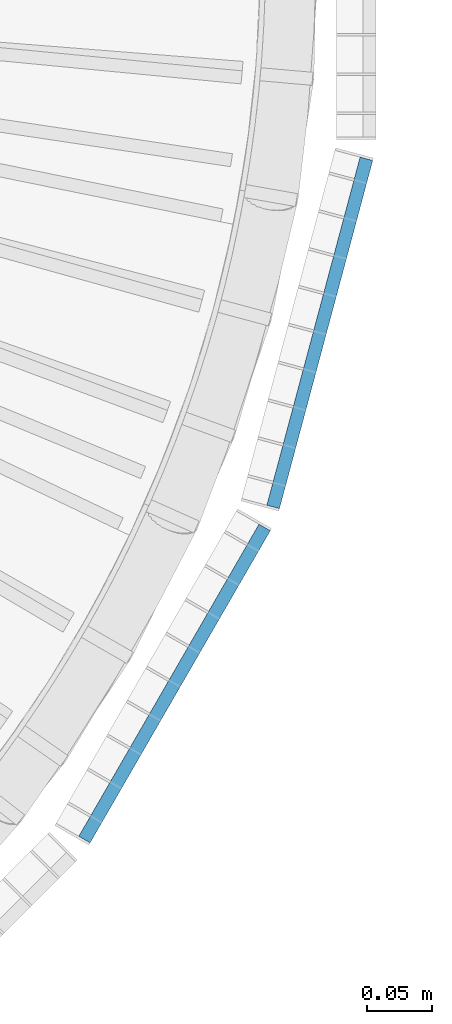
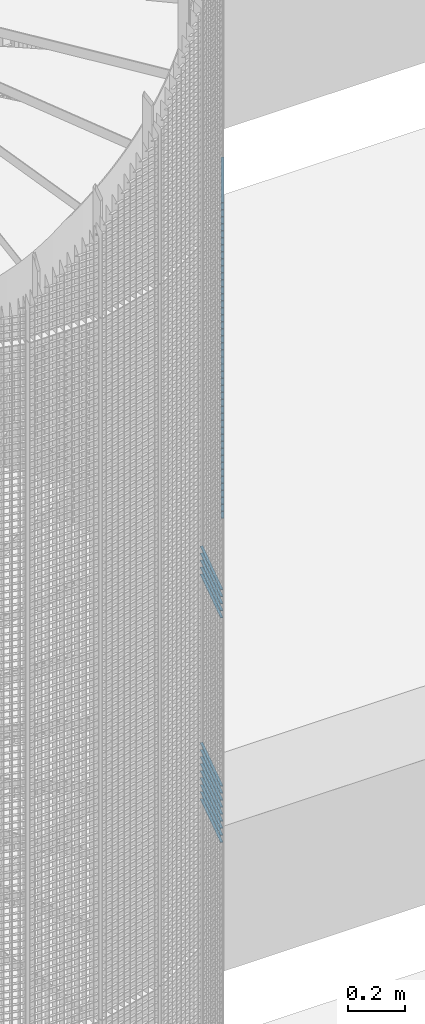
# One storey, part 228 of 1148: 60 beams, 2 elements without a shape of their own.
"""IFC2X3 building model written with IfcOpenShell, lengths in millimetres."""

from ifc_helpers import new_model, si_unit, frame, origin_with_axes, origin_2d_with_axis, place, context, subcontext, project, spatial, rectangle, extrude, material, type_object, element, aggregate, save


model = new_model("IFC2X3")

# Units and contexts
model_context = context("Model", 3, precision=1e-05, world=origin_with_axes())
body_context = subcontext(model_context, "Body", "Model", "MODEL_VIEW")
ifc_project = project(units=[si_unit("LENGTHUNIT", "METRE", prefix="MILLI"), si_unit("AREAUNIT", "SQUARE_METRE"), si_unit("VOLUMEUNIT", "CUBIC_METRE"), si_unit("MASSUNIT", "GRAM", prefix="KILO"), si_unit("TIMEUNIT", "SECOND"), si_unit("PLANEANGLEUNIT", "RADIAN"), si_unit("SOLIDANGLEUNIT", "STERADIAN"), si_unit("THERMODYNAMICTEMPERATUREUNIT", "DEGREE_CELSIUS"), si_unit("LUMINOUSINTENSITYUNIT", "LUMEN")], contexts=[model_context])

# Site, building, storey
site_placement = place(None, origin_with_axes())
site = spatial("IfcSite", under=ifc_project, at=site_placement, Name="Undefined", CompositionType="ELEMENT")
building_placement = place(site_placement, origin_with_axes())
building = spatial("IfcBuilding", under=site, at=building_placement, Name="Undefined", CompositionType="ELEMENT")
storey_placement = place(building_placement, origin_with_axes())
storey = spatial("IfcBuildingStorey", under=building, at=storey_placement, Name="Undefined", CompositionType="ELEMENT", Elevation=0.0)

# Assembly, beams
assembly_1_placement = place(storey_placement, origin_with_axes())
assembly_1 = element("IfcElementAssembly", 1, at=assembly_1_placement, inside=storey, Name="BORDURE", AssemblyPlace="NOTDEFINED", PredefinedType="NOTDEFINED")
ifc_material = material(Name="STEEL/S235JR")
beam_type = type_object("IfcBeamType", Name="PL2*10", PredefinedType="NOTDEFINED")
beam_1_placement = place(assembly_1_placement, frame((1039.82309522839, -421.483733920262, 12270.0), z_axis=(0.965925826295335, -0.258819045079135, 0.0), x_axis=(0.258819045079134, 0.965925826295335, 0.0)))
beam_1 = element("IfcBeam", 2, at=beam_1_placement, type_object=beam_type, material=ifc_material, Name="ENTRETOISE", context=body_context, shape_type="SweptSolid", body=[
    extrude(rectangle(XDim=2.0, YDim=10.0, at=origin_2d_with_axis()), frame((275.999999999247, 9.09494701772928e-13, 1.53210777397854e-14), z_axis=(-1.0, 0.0, 0.0), x_axis=(0.0, -1.0, 0.0)), (0.0, 0.0, 1.0), 276.0),
])
beam_2_placement = place(assembly_1_placement, frame((1039.82309522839, -421.483733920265, 12990.0), z_axis=(0.965925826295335, -0.258819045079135, 0.0), x_axis=(0.258819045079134, 0.965925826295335, 0.0)))
beam_2 = element("IfcBeam", 3, at=beam_2_placement, type_object=beam_type, material=ifc_material, Name="ENTRETOISE", context=body_context, shape_type="SweptSolid", body=[
    extrude(rectangle(XDim=2.0, YDim=10.0, at=origin_2d_with_axis()), frame((275.999999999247, 9.09494701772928e-13, 1.53210777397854e-14), z_axis=(-1.0, 0.0, 0.0), x_axis=(0.0, -1.0, 0.0)), (0.0, 0.0, 1.0), 276.0),
])
beam_3_placement = place(assembly_1_placement, frame((1039.82309522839, -421.483733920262, 12240.0), z_axis=(0.965925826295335, -0.258819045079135, 0.0), x_axis=(0.258819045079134, 0.965925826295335, 0.0)))
beam_3 = element("IfcBeam", 4, at=beam_3_placement, type_object=beam_type, material=ifc_material, Name="ENTRETOISE", context=body_context, shape_type="SweptSolid", body=[
    extrude(rectangle(XDim=2.0, YDim=10.0, at=origin_2d_with_axis()), frame((275.999999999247, 9.09494701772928e-13, 1.53210777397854e-14), z_axis=(-1.0, 0.0, 0.0), x_axis=(0.0, -1.0, 0.0)), (0.0, 0.0, 1.0), 276.0),
])
beam_4_placement = place(assembly_1_placement, frame((1039.82309522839, -421.483733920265, 13020.0), z_axis=(0.965925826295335, -0.258819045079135, 0.0), x_axis=(0.258819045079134, 0.965925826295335, 0.0)))
beam_4 = element("IfcBeam", 5, at=beam_4_placement, type_object=beam_type, material=ifc_material, Name="ENTRETOISE", context=body_context, shape_type="SweptSolid", body=[
    extrude(rectangle(XDim=2.0, YDim=10.0, at=origin_2d_with_axis()), frame((275.999999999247, 9.09494701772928e-13, 1.53210777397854e-14), z_axis=(-1.0, 0.0, 0.0), x_axis=(0.0, -1.0, 0.0)), (0.0, 0.0, 1.0), 276.0),
])
beam_5_placement = place(assembly_1_placement, frame((1039.82309522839, -421.483733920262, 12210.0), z_axis=(0.965925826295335, -0.258819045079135, 0.0), x_axis=(0.258819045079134, 0.965925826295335, 0.0)))
beam_5 = element("IfcBeam", 6, at=beam_5_placement, type_object=beam_type, material=ifc_material, Name="ENTRETOISE", context=body_context, shape_type="SweptSolid", body=[
    extrude(rectangle(XDim=2.0, YDim=10.0, at=origin_2d_with_axis()), frame((275.999999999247, 9.09494701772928e-13, 1.53210777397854e-14), z_axis=(-1.0, 0.0, 0.0), x_axis=(0.0, -1.0, 0.0)), (0.0, 0.0, 1.0), 276.0),
])
beam_6_placement = place(assembly_1_placement, frame((1039.82309522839, -421.483733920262, 12180.0), z_axis=(0.965925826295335, -0.258819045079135, 0.0), x_axis=(0.258819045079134, 0.965925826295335, 0.0)))
beam_6 = element("IfcBeam", 7, at=beam_6_placement, type_object=beam_type, material=ifc_material, Name="ENTRETOISE", context=body_context, shape_type="SweptSolid", body=[
    extrude(rectangle(XDim=2.0, YDim=10.0, at=origin_2d_with_axis()), frame((275.999999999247, 9.09494701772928e-13, 1.53210777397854e-14), z_axis=(-1.0, 0.0, 0.0), x_axis=(0.0, -1.0, 0.0)), (0.0, 0.0, 1.0), 276.0),
])
beam_7_placement = place(assembly_1_placement, frame((1039.82309522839, -421.483733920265, 13050.0), z_axis=(0.965925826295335, -0.258819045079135, 0.0), x_axis=(0.258819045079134, 0.965925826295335, 0.0)))
beam_7 = element("IfcBeam", 8, at=beam_7_placement, type_object=beam_type, material=ifc_material, Name="ENTRETOISE", context=body_context, shape_type="SweptSolid", body=[
    extrude(rectangle(XDim=2.0, YDim=10.0, at=origin_2d_with_axis()), frame((275.999999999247, 9.09494701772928e-13, 1.53210777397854e-14), z_axis=(-1.0, 0.0, 0.0), x_axis=(0.0, -1.0, 0.0)), (0.0, 0.0, 1.0), 276.0),
])
beam_8_placement = place(assembly_1_placement, frame((1039.82309522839, -421.483733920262, 12150.0), z_axis=(0.965925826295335, -0.258819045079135, 0.0), x_axis=(0.258819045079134, 0.965925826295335, 0.0)))
beam_8 = element("IfcBeam", 9, at=beam_8_placement, type_object=beam_type, material=ifc_material, Name="ENTRETOISE", context=body_context, shape_type="SweptSolid", body=[
    extrude(rectangle(XDim=2.0, YDim=10.0, at=origin_2d_with_axis()), frame((275.999999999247, 9.09494701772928e-13, 1.53210777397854e-14), z_axis=(-1.0, 0.0, 0.0), x_axis=(0.0, -1.0, 0.0)), (0.0, 0.0, 1.0), 276.0),
])
beam_9_placement = place(assembly_1_placement, frame((1039.82309522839, -421.483733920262, 12120.0), z_axis=(0.965925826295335, -0.258819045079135, 0.0), x_axis=(0.258819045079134, 0.965925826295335, 0.0)))
beam_9 = element("IfcBeam", 10, at=beam_9_placement, type_object=beam_type, material=ifc_material, Name="ENTRETOISE", context=body_context, shape_type="SweptSolid", body=[
    extrude(rectangle(XDim=2.0, YDim=10.0, at=origin_2d_with_axis()), frame((275.999999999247, 9.09494701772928e-13, 1.53210777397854e-14), z_axis=(-1.0, 0.0, 0.0), x_axis=(0.0, -1.0, 0.0)), (0.0, 0.0, 1.0), 276.0),
])
beam_10_placement = place(assembly_1_placement, frame((1039.82309522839, -421.483733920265, 13080.0), z_axis=(0.965925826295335, -0.258819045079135, 0.0), x_axis=(0.258819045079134, 0.965925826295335, 0.0)))
beam_10 = element("IfcBeam", 11, at=beam_10_placement, type_object=beam_type, material=ifc_material, Name="ENTRETOISE", context=body_context, shape_type="SweptSolid", body=[
    extrude(rectangle(XDim=2.0, YDim=10.0, at=origin_2d_with_axis()), frame((275.999999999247, 9.09494701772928e-13, 1.53210777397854e-14), z_axis=(-1.0, 0.0, 0.0), x_axis=(0.0, -1.0, 0.0)), (0.0, 0.0, 1.0), 276.0),
])
beam_11_placement = place(assembly_1_placement, frame((1039.82309522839, -421.483733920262, 12090.0), z_axis=(0.965925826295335, -0.258819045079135, 0.0), x_axis=(0.258819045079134, 0.965925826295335, 0.0)))
beam_11 = element("IfcBeam", 12, at=beam_11_placement, type_object=beam_type, material=ifc_material, Name="ENTRETOISE", context=body_context, shape_type="SweptSolid", body=[
    extrude(rectangle(XDim=2.0, YDim=10.0, at=origin_2d_with_axis()), frame((275.999999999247, 9.09494701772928e-13, 1.53210777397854e-14), z_axis=(-1.0, 0.0, 0.0), x_axis=(0.0, -1.0, 0.0)), (0.0, 0.0, 1.0), 276.0),
])
beam_12_placement = place(assembly_1_placement, frame((1039.82309522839, -421.483733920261, 12060.0), z_axis=(0.965925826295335, -0.258819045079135, 0.0), x_axis=(0.258819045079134, 0.965925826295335, 0.0)))
beam_12 = element("IfcBeam", 13, at=beam_12_placement, type_object=beam_type, material=ifc_material, Name="ENTRETOISE", context=body_context, shape_type="SweptSolid", body=[
    extrude(rectangle(XDim=2.0, YDim=10.0, at=origin_2d_with_axis()), frame((275.999999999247, 9.09494701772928e-13, 1.53210777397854e-14), z_axis=(-1.0, 0.0, 0.0), x_axis=(0.0, -1.0, 0.0)), (0.0, 0.0, 1.0), 276.0),
])
beam_13_placement = place(assembly_1_placement, frame((1039.82309522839, -421.483733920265, 13110.0), z_axis=(0.965925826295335, -0.258819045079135, 0.0), x_axis=(0.258819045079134, 0.965925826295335, 0.0)))
beam_13 = element("IfcBeam", 14, at=beam_13_placement, type_object=beam_type, material=ifc_material, Name="ENTRETOISE", context=body_context, shape_type="SweptSolid", body=[
    extrude(rectangle(XDim=2.0, YDim=10.0, at=origin_2d_with_axis()), frame((275.999999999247, 9.09494701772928e-13, 1.53210777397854e-14), z_axis=(-1.0, 0.0, 0.0), x_axis=(0.0, -1.0, 0.0)), (0.0, 0.0, 1.0), 276.0),
])
beam_14_placement = place(assembly_1_placement, frame((1039.82309522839, -421.48373392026, 12030.0), z_axis=(0.965925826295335, -0.258819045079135, 0.0), x_axis=(0.258819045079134, 0.965925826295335, 0.0)))
beam_14 = element("IfcBeam", 15, at=beam_14_placement, type_object=beam_type, material=ifc_material, Name="ENTRETOISE", context=body_context, shape_type="SweptSolid", body=[
    extrude(rectangle(XDim=2.0, YDim=10.0, at=origin_2d_with_axis()), frame((275.999999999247, 9.09494701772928e-13, 1.53210777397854e-14), z_axis=(-1.0, 0.0, 0.0), x_axis=(0.0, -1.0, 0.0)), (0.0, 0.0, 1.0), 276.0),
])
aggregate(assembly_1, [beam_1, beam_2, beam_3, beam_4, beam_5, beam_6, beam_7, beam_8, beam_9, beam_10, beam_11, beam_12, beam_13, beam_14])

assembly_2_placement = place(storey_placement, origin_with_axes())
assembly_2 = element("IfcElementAssembly", 16, at=assembly_2_placement, inside=storey, Name="BORDURE", AssemblyPlace="NOTDEFINED", PredefinedType="NOTDEFINED")
beam_15_placement = place(assembly_2_placement, frame((895.303964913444, -676.248044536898, 14970.0), z_axis=(0.866025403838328, -0.49999999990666, 0.0), x_axis=(0.49999999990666, 0.866025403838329, 0.0)))
beam_15 = element("IfcBeam", 17, at=beam_15_placement, type_object=beam_type, material=ifc_material, Name="ENTRETOISE", context=body_context, shape_type="SweptSolid", body=[
    extrude(rectangle(XDim=2.0, YDim=10.0, at=origin_2d_with_axis()), frame((275.999999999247, 9.09494701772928e-13, 1.53210777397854e-14), z_axis=(-1.0, 0.0, 0.0), x_axis=(0.0, -1.0, 0.0)), (0.0, 0.0, 1.0), 276.0),
])
beam_16_placement = place(assembly_2_placement, frame((895.303964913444, -676.248044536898, 14940.0), z_axis=(0.866025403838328, -0.49999999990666, 0.0), x_axis=(0.49999999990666, 0.866025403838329, 0.0)))
beam_16 = element("IfcBeam", 18, at=beam_16_placement, type_object=beam_type, material=ifc_material, Name="ENTRETOISE", context=body_context, shape_type="SweptSolid", body=[
    extrude(rectangle(XDim=2.0, YDim=10.0, at=origin_2d_with_axis()), frame((275.999999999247, 9.09494701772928e-13, 1.53210777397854e-14), z_axis=(-1.0, 0.0, 0.0), x_axis=(0.0, -1.0, 0.0)), (0.0, 0.0, 1.0), 276.0),
])
beam_17_placement = place(assembly_2_placement, frame((895.303964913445, -676.248044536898, 14910.0), z_axis=(0.866025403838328, -0.49999999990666, 0.0), x_axis=(0.49999999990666, 0.866025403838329, 0.0)))
beam_17 = element("IfcBeam", 19, at=beam_17_placement, type_object=beam_type, material=ifc_material, Name="ENTRETOISE", context=body_context, shape_type="SweptSolid", body=[
    extrude(rectangle(XDim=2.0, YDim=10.0, at=origin_2d_with_axis()), frame((275.999999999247, 9.09494701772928e-13, 1.53210777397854e-14), z_axis=(-1.0, 0.0, 0.0), x_axis=(0.0, -1.0, 0.0)), (0.0, 0.0, 1.0), 276.0),
])
beam_18_placement = place(assembly_2_placement, frame((895.303964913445, -676.248044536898, 14880.0), z_axis=(0.866025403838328, -0.49999999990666, 0.0), x_axis=(0.49999999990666, 0.866025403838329, 0.0)))
beam_18 = element("IfcBeam", 20, at=beam_18_placement, type_object=beam_type, material=ifc_material, Name="ENTRETOISE", context=body_context, shape_type="SweptSolid", body=[
    extrude(rectangle(XDim=2.0, YDim=10.0, at=origin_2d_with_axis()), frame((275.999999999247, 9.09494701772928e-13, 1.53210777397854e-14), z_axis=(-1.0, 0.0, 0.0), x_axis=(0.0, -1.0, 0.0)), (0.0, 0.0, 1.0), 276.0),
])
beam_19_placement = place(assembly_2_placement, frame((895.303964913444, -676.248044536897, 14850.0), z_axis=(0.866025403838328, -0.49999999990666, 0.0), x_axis=(0.49999999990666, 0.866025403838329, 0.0)))
beam_19 = element("IfcBeam", 21, at=beam_19_placement, type_object=beam_type, material=ifc_material, Name="ENTRETOISE", context=body_context, shape_type="SweptSolid", body=[
    extrude(rectangle(XDim=2.0, YDim=10.0, at=origin_2d_with_axis()), frame((275.999999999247, 9.09494701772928e-13, 1.53210777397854e-14), z_axis=(-1.0, 0.0, 0.0), x_axis=(0.0, -1.0, 0.0)), (0.0, 0.0, 1.0), 276.0),
])
beam_20_placement = place(assembly_2_placement, frame((895.303964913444, -676.248044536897, 14820.0), z_axis=(0.866025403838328, -0.49999999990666, 0.0), x_axis=(0.49999999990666, 0.866025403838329, 0.0)))
beam_20 = element("IfcBeam", 22, at=beam_20_placement, type_object=beam_type, material=ifc_material, Name="ENTRETOISE", context=body_context, shape_type="SweptSolid", body=[
    extrude(rectangle(XDim=2.0, YDim=10.0, at=origin_2d_with_axis()), frame((275.999999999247, 9.09494701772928e-13, 1.53210777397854e-14), z_axis=(-1.0, 0.0, 0.0), x_axis=(0.0, -1.0, 0.0)), (0.0, 0.0, 1.0), 276.0),
])
beam_21_placement = place(assembly_2_placement, frame((895.303964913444, -676.248044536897, 14790.0), z_axis=(0.866025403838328, -0.49999999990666, 0.0), x_axis=(0.49999999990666, 0.866025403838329, 0.0)))
beam_21 = element("IfcBeam", 23, at=beam_21_placement, type_object=beam_type, material=ifc_material, Name="ENTRETOISE", context=body_context, shape_type="SweptSolid", body=[
    extrude(rectangle(XDim=2.0, YDim=10.0, at=origin_2d_with_axis()), frame((275.999999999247, 9.09494701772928e-13, 1.53210777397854e-14), z_axis=(-1.0, 0.0, 0.0), x_axis=(0.0, -1.0, 0.0)), (0.0, 0.0, 1.0), 276.0),
])
beam_22_placement = place(assembly_2_placement, frame((895.303964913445, -676.248044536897, 14760.0), z_axis=(0.866025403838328, -0.49999999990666, 0.0), x_axis=(0.49999999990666, 0.866025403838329, 0.0)))
beam_22 = element("IfcBeam", 24, at=beam_22_placement, type_object=beam_type, material=ifc_material, Name="ENTRETOISE", context=body_context, shape_type="SweptSolid", body=[
    extrude(rectangle(XDim=2.0, YDim=10.0, at=origin_2d_with_axis()), frame((275.999999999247, 9.09494701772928e-13, 1.53210777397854e-14), z_axis=(-1.0, 0.0, 0.0), x_axis=(0.0, -1.0, 0.0)), (0.0, 0.0, 1.0), 276.0),
])
beam_23_placement = place(assembly_2_placement, frame((895.303964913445, -676.248044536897, 14730.0), z_axis=(0.866025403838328, -0.49999999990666, 0.0), x_axis=(0.49999999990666, 0.866025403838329, 0.0)))
beam_23 = element("IfcBeam", 25, at=beam_23_placement, type_object=beam_type, material=ifc_material, Name="ENTRETOISE", context=body_context, shape_type="SweptSolid", body=[
    extrude(rectangle(XDim=2.0, YDim=10.0, at=origin_2d_with_axis()), frame((275.999999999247, 9.09494701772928e-13, 1.53210777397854e-14), z_axis=(-1.0, 0.0, 0.0), x_axis=(0.0, -1.0, 0.0)), (0.0, 0.0, 1.0), 276.0),
])
beam_24_placement = place(assembly_2_placement, frame((895.303964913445, -676.248044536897, 14700.0), z_axis=(0.866025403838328, -0.49999999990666, 0.0), x_axis=(0.49999999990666, 0.866025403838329, 0.0)))
beam_24 = element("IfcBeam", 26, at=beam_24_placement, type_object=beam_type, material=ifc_material, Name="ENTRETOISE", context=body_context, shape_type="SweptSolid", body=[
    extrude(rectangle(XDim=2.0, YDim=10.0, at=origin_2d_with_axis()), frame((275.999999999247, 9.09494701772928e-13, 1.53210777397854e-14), z_axis=(-1.0, 0.0, 0.0), x_axis=(0.0, -1.0, 0.0)), (0.0, 0.0, 1.0), 276.0),
])
beam_25_placement = place(assembly_2_placement, frame((895.303964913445, -676.248044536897, 14670.0), z_axis=(0.866025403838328, -0.49999999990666, 0.0), x_axis=(0.49999999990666, 0.866025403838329, 0.0)))
beam_25 = element("IfcBeam", 27, at=beam_25_placement, type_object=beam_type, material=ifc_material, Name="ENTRETOISE", context=body_context, shape_type="SweptSolid", body=[
    extrude(rectangle(XDim=2.0, YDim=10.0, at=origin_2d_with_axis()), frame((275.999999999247, 9.09494701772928e-13, 1.53210777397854e-14), z_axis=(-1.0, 0.0, 0.0), x_axis=(0.0, -1.0, 0.0)), (0.0, 0.0, 1.0), 276.0),
])
beam_26_placement = place(assembly_2_placement, frame((895.303964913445, -676.248044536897, 14640.0), z_axis=(0.866025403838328, -0.49999999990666, 0.0), x_axis=(0.49999999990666, 0.866025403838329, 0.0)))
beam_26 = element("IfcBeam", 28, at=beam_26_placement, type_object=beam_type, material=ifc_material, Name="ENTRETOISE", context=body_context, shape_type="SweptSolid", body=[
    extrude(rectangle(XDim=2.0, YDim=10.0, at=origin_2d_with_axis()), frame((275.999999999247, 9.09494701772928e-13, 1.53210777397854e-14), z_axis=(-1.0, 0.0, 0.0), x_axis=(0.0, -1.0, 0.0)), (0.0, 0.0, 1.0), 276.0),
])
beam_27_placement = place(assembly_2_placement, frame((895.303964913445, -676.248044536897, 14610.0), z_axis=(0.866025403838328, -0.49999999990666, 0.0), x_axis=(0.49999999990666, 0.866025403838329, 0.0)))
beam_27 = element("IfcBeam", 29, at=beam_27_placement, type_object=beam_type, material=ifc_material, Name="ENTRETOISE", context=body_context, shape_type="SweptSolid", body=[
    extrude(rectangle(XDim=2.0, YDim=10.0, at=origin_2d_with_axis()), frame((275.999999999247, 9.09494701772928e-13, 1.53210777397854e-14), z_axis=(-1.0, 0.0, 0.0), x_axis=(0.0, -1.0, 0.0)), (0.0, 0.0, 1.0), 276.0),
])
beam_28_placement = place(assembly_2_placement, frame((895.303964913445, -676.248044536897, 14580.0), z_axis=(0.866025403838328, -0.49999999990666, 0.0), x_axis=(0.49999999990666, 0.866025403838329, 0.0)))
beam_28 = element("IfcBeam", 30, at=beam_28_placement, type_object=beam_type, material=ifc_material, Name="ENTRETOISE", context=body_context, shape_type="SweptSolid", body=[
    extrude(rectangle(XDim=2.0, YDim=10.0, at=origin_2d_with_axis()), frame((275.999999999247, 9.09494701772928e-13, 1.53210777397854e-14), z_axis=(-1.0, 0.0, 0.0), x_axis=(0.0, -1.0, 0.0)), (0.0, 0.0, 1.0), 276.0),
])
beam_29_placement = place(assembly_2_placement, frame((895.303964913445, -676.248044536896, 14550.0), z_axis=(0.866025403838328, -0.49999999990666, 0.0), x_axis=(0.49999999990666, 0.866025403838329, 0.0)))
beam_29 = element("IfcBeam", 31, at=beam_29_placement, type_object=beam_type, material=ifc_material, Name="ENTRETOISE", context=body_context, shape_type="SweptSolid", body=[
    extrude(rectangle(XDim=2.0, YDim=10.0, at=origin_2d_with_axis()), frame((275.999999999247, 9.09494701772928e-13, 1.53210777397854e-14), z_axis=(-1.0, 0.0, 0.0), x_axis=(0.0, -1.0, 0.0)), (0.0, 0.0, 1.0), 276.0),
])
beam_30_placement = place(assembly_2_placement, frame((895.303964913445, -676.248044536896, 14520.0), z_axis=(0.866025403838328, -0.49999999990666, 0.0), x_axis=(0.49999999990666, 0.866025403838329, 0.0)))
beam_30 = element("IfcBeam", 32, at=beam_30_placement, type_object=beam_type, material=ifc_material, Name="ENTRETOISE", context=body_context, shape_type="SweptSolid", body=[
    extrude(rectangle(XDim=2.0, YDim=10.0, at=origin_2d_with_axis()), frame((275.999999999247, 9.09494701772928e-13, 1.53210777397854e-14), z_axis=(-1.0, 0.0, 0.0), x_axis=(0.0, -1.0, 0.0)), (0.0, 0.0, 1.0), 276.0),
])
beam_31_placement = place(assembly_2_placement, frame((895.303964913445, -676.248044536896, 14490.0), z_axis=(0.866025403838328, -0.49999999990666, 0.0), x_axis=(0.49999999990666, 0.866025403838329, 0.0)))
beam_31 = element("IfcBeam", 33, at=beam_31_placement, type_object=beam_type, material=ifc_material, Name="ENTRETOISE", context=body_context, shape_type="SweptSolid", body=[
    extrude(rectangle(XDim=2.0, YDim=10.0, at=origin_2d_with_axis()), frame((275.999999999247, 9.09494701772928e-13, 1.53210777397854e-14), z_axis=(-1.0, 0.0, 0.0), x_axis=(0.0, -1.0, 0.0)), (0.0, 0.0, 1.0), 276.0),
])
beam_32_placement = place(assembly_2_placement, frame((895.303964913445, -676.248044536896, 14460.0), z_axis=(0.866025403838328, -0.49999999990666, 0.0), x_axis=(0.49999999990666, 0.866025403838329, 0.0)))
beam_32 = element("IfcBeam", 34, at=beam_32_placement, type_object=beam_type, material=ifc_material, Name="ENTRETOISE", context=body_context, shape_type="SweptSolid", body=[
    extrude(rectangle(XDim=2.0, YDim=10.0, at=origin_2d_with_axis()), frame((275.999999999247, 9.09494701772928e-13, 1.53210777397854e-14), z_axis=(-1.0, 0.0, 0.0), x_axis=(0.0, -1.0, 0.0)), (0.0, 0.0, 1.0), 276.0),
])
beam_33_placement = place(assembly_2_placement, frame((895.303964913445, -676.248044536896, 14430.0), z_axis=(0.866025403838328, -0.49999999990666, 0.0), x_axis=(0.49999999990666, 0.866025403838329, 0.0)))
beam_33 = element("IfcBeam", 35, at=beam_33_placement, type_object=beam_type, material=ifc_material, Name="ENTRETOISE", context=body_context, shape_type="SweptSolid", body=[
    extrude(rectangle(XDim=2.0, YDim=10.0, at=origin_2d_with_axis()), frame((275.999999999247, 9.09494701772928e-13, 1.53210777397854e-14), z_axis=(-1.0, 0.0, 0.0), x_axis=(0.0, -1.0, 0.0)), (0.0, 0.0, 1.0), 276.0),
])
beam_34_placement = place(assembly_2_placement, frame((895.303964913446, -676.248044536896, 14400.0), z_axis=(0.866025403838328, -0.49999999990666, 0.0), x_axis=(0.49999999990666, 0.866025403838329, 0.0)))
beam_34 = element("IfcBeam", 36, at=beam_34_placement, type_object=beam_type, material=ifc_material, Name="ENTRETOISE", context=body_context, shape_type="SweptSolid", body=[
    extrude(rectangle(XDim=2.0, YDim=10.0, at=origin_2d_with_axis()), frame((275.999999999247, 9.09494701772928e-13, 1.53210777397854e-14), z_axis=(-1.0, 0.0, 0.0), x_axis=(0.0, -1.0, 0.0)), (0.0, 0.0, 1.0), 276.0),
])
beam_35_placement = place(assembly_2_placement, frame((895.303964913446, -676.248044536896, 14370.0), z_axis=(0.866025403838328, -0.49999999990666, 0.0), x_axis=(0.49999999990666, 0.866025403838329, 0.0)))
beam_35 = element("IfcBeam", 37, at=beam_35_placement, type_object=beam_type, material=ifc_material, Name="ENTRETOISE", context=body_context, shape_type="SweptSolid", body=[
    extrude(rectangle(XDim=2.0, YDim=10.0, at=origin_2d_with_axis()), frame((275.999999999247, 9.09494701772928e-13, 1.53210777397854e-14), z_axis=(-1.0, 0.0, 0.0), x_axis=(0.0, -1.0, 0.0)), (0.0, 0.0, 1.0), 276.0),
])
beam_36_placement = place(assembly_2_placement, frame((895.303964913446, -676.248044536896, 14340.0), z_axis=(0.866025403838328, -0.49999999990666, 0.0), x_axis=(0.49999999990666, 0.866025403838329, 0.0)))
beam_36 = element("IfcBeam", 38, at=beam_36_placement, type_object=beam_type, material=ifc_material, Name="ENTRETOISE", context=body_context, shape_type="SweptSolid", body=[
    extrude(rectangle(XDim=2.0, YDim=10.0, at=origin_2d_with_axis()), frame((275.999999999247, 9.09494701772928e-13, 1.53210777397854e-14), z_axis=(-1.0, 0.0, 0.0), x_axis=(0.0, -1.0, 0.0)), (0.0, 0.0, 1.0), 276.0),
])
beam_37_placement = place(assembly_2_placement, frame((895.303964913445, -676.248044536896, 14310.0), z_axis=(0.866025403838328, -0.49999999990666, 0.0), x_axis=(0.49999999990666, 0.866025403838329, 0.0)))
beam_37 = element("IfcBeam", 39, at=beam_37_placement, type_object=beam_type, material=ifc_material, Name="ENTRETOISE", context=body_context, shape_type="SweptSolid", body=[
    extrude(rectangle(XDim=2.0, YDim=10.0, at=origin_2d_with_axis()), frame((275.999999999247, 9.09494701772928e-13, 1.53210777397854e-14), z_axis=(-1.0, 0.0, 0.0), x_axis=(0.0, -1.0, 0.0)), (0.0, 0.0, 1.0), 276.0),
])
beam_38_placement = place(assembly_2_placement, frame((895.303964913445, -676.248044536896, 14280.0), z_axis=(0.866025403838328, -0.49999999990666, 0.0), x_axis=(0.49999999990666, 0.866025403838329, 0.0)))
beam_38 = element("IfcBeam", 40, at=beam_38_placement, type_object=beam_type, material=ifc_material, Name="ENTRETOISE", context=body_context, shape_type="SweptSolid", body=[
    extrude(rectangle(XDim=2.0, YDim=10.0, at=origin_2d_with_axis()), frame((275.999999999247, 9.09494701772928e-13, 1.53210777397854e-14), z_axis=(-1.0, 0.0, 0.0), x_axis=(0.0, -1.0, 0.0)), (0.0, 0.0, 1.0), 276.0),
])
beam_39_placement = place(assembly_2_placement, frame((895.303964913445, -676.248044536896, 14250.0), z_axis=(0.866025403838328, -0.49999999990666, 0.0), x_axis=(0.49999999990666, 0.866025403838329, 0.0)))
beam_39 = element("IfcBeam", 41, at=beam_39_placement, type_object=beam_type, material=ifc_material, Name="ENTRETOISE", context=body_context, shape_type="SweptSolid", body=[
    extrude(rectangle(XDim=2.0, YDim=10.0, at=origin_2d_with_axis()), frame((275.999999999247, 9.09494701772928e-13, 1.53210777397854e-14), z_axis=(-1.0, 0.0, 0.0), x_axis=(0.0, -1.0, 0.0)), (0.0, 0.0, 1.0), 276.0),
])
beam_40_placement = place(assembly_2_placement, frame((895.303964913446, -676.248044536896, 14220.0), z_axis=(0.866025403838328, -0.49999999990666, 0.0), x_axis=(0.49999999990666, 0.866025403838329, 0.0)))
beam_40 = element("IfcBeam", 42, at=beam_40_placement, type_object=beam_type, material=ifc_material, Name="ENTRETOISE", context=body_context, shape_type="SweptSolid", body=[
    extrude(rectangle(XDim=2.0, YDim=10.0, at=origin_2d_with_axis()), frame((275.999999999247, 9.09494701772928e-13, 1.53210777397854e-14), z_axis=(-1.0, 0.0, 0.0), x_axis=(0.0, -1.0, 0.0)), (0.0, 0.0, 1.0), 276.0),
])
beam_41_placement = place(assembly_2_placement, frame((895.303964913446, -676.248044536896, 14190.0), z_axis=(0.866025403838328, -0.49999999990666, 0.0), x_axis=(0.49999999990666, 0.866025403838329, 0.0)))
beam_41 = element("IfcBeam", 43, at=beam_41_placement, type_object=beam_type, material=ifc_material, Name="ENTRETOISE", context=body_context, shape_type="SweptSolid", body=[
    extrude(rectangle(XDim=2.0, YDim=10.0, at=origin_2d_with_axis()), frame((275.999999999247, 9.09494701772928e-13, 1.53210777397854e-14), z_axis=(-1.0, 0.0, 0.0), x_axis=(0.0, -1.0, 0.0)), (0.0, 0.0, 1.0), 276.0),
])
beam_42_placement = place(assembly_2_placement, frame((895.303964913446, -676.248044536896, 14160.0), z_axis=(0.866025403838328, -0.49999999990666, 0.0), x_axis=(0.49999999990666, 0.866025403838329, 0.0)))
beam_42 = element("IfcBeam", 44, at=beam_42_placement, type_object=beam_type, material=ifc_material, Name="ENTRETOISE", context=body_context, shape_type="SweptSolid", body=[
    extrude(rectangle(XDim=2.0, YDim=10.0, at=origin_2d_with_axis()), frame((275.999999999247, 9.09494701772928e-13, 1.53210777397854e-14), z_axis=(-1.0, 0.0, 0.0), x_axis=(0.0, -1.0, 0.0)), (0.0, 0.0, 1.0), 276.0),
])
beam_43_placement = place(assembly_2_placement, frame((895.303964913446, -676.248044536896, 14130.0), z_axis=(0.866025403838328, -0.49999999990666, 0.0), x_axis=(0.49999999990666, 0.866025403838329, 0.0)))
beam_43 = element("IfcBeam", 45, at=beam_43_placement, type_object=beam_type, material=ifc_material, Name="ENTRETOISE", context=body_context, shape_type="SweptSolid", body=[
    extrude(rectangle(XDim=2.0, YDim=10.0, at=origin_2d_with_axis()), frame((275.999999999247, 9.09494701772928e-13, 1.53210777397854e-14), z_axis=(-1.0, 0.0, 0.0), x_axis=(0.0, -1.0, 0.0)), (0.0, 0.0, 1.0), 276.0),
])
beam_44_placement = place(assembly_2_placement, frame((895.303964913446, -676.248044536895, 14100.0), z_axis=(0.866025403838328, -0.49999999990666, 0.0), x_axis=(0.49999999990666, 0.866025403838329, 0.0)))
beam_44 = element("IfcBeam", 46, at=beam_44_placement, type_object=beam_type, material=ifc_material, Name="ENTRETOISE", context=body_context, shape_type="SweptSolid", body=[
    extrude(rectangle(XDim=2.0, YDim=10.0, at=origin_2d_with_axis()), frame((275.999999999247, 9.09494701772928e-13, 1.53210777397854e-14), z_axis=(-1.0, 0.0, 0.0), x_axis=(0.0, -1.0, 0.0)), (0.0, 0.0, 1.0), 276.0),
])
beam_45_placement = place(assembly_2_placement, frame((895.303964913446, -676.248044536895, 14070.0), z_axis=(0.866025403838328, -0.49999999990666, 0.0), x_axis=(0.49999999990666, 0.866025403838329, 0.0)))
beam_45 = element("IfcBeam", 47, at=beam_45_placement, type_object=beam_type, material=ifc_material, Name="ENTRETOISE", context=body_context, shape_type="SweptSolid", body=[
    extrude(rectangle(XDim=2.0, YDim=10.0, at=origin_2d_with_axis()), frame((275.999999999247, 9.09494701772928e-13, 1.53210777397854e-14), z_axis=(-1.0, 0.0, 0.0), x_axis=(0.0, -1.0, 0.0)), (0.0, 0.0, 1.0), 276.0),
])
beam_46_placement = place(assembly_2_placement, frame((895.303964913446, -676.248044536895, 14040.0), z_axis=(0.866025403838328, -0.49999999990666, 0.0), x_axis=(0.49999999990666, 0.866025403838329, 0.0)))
beam_46 = element("IfcBeam", 48, at=beam_46_placement, type_object=beam_type, material=ifc_material, Name="ENTRETOISE", context=body_context, shape_type="SweptSolid", body=[
    extrude(rectangle(XDim=2.0, YDim=10.0, at=origin_2d_with_axis()), frame((275.999999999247, 9.09494701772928e-13, 1.53210777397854e-14), z_axis=(-1.0, 0.0, 0.0), x_axis=(0.0, -1.0, 0.0)), (0.0, 0.0, 1.0), 276.0),
])
beam_47_placement = place(assembly_2_placement, frame((895.303964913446, -676.248044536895, 14010.0), z_axis=(0.866025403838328, -0.49999999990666, 0.0), x_axis=(0.49999999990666, 0.866025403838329, 0.0)))
beam_47 = element("IfcBeam", 49, at=beam_47_placement, type_object=beam_type, material=ifc_material, Name="ENTRETOISE", context=body_context, shape_type="SweptSolid", body=[
    extrude(rectangle(XDim=2.0, YDim=10.0, at=origin_2d_with_axis()), frame((275.999999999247, 9.09494701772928e-13, 1.53210777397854e-14), z_axis=(-1.0, 0.0, 0.0), x_axis=(0.0, -1.0, 0.0)), (0.0, 0.0, 1.0), 276.0),
])
beam_48_placement = place(assembly_2_placement, frame((895.303964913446, -676.248044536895, 13980.0), z_axis=(0.866025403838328, -0.49999999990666, 0.0), x_axis=(0.49999999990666, 0.866025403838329, 0.0)))
beam_48 = element("IfcBeam", 50, at=beam_48_placement, type_object=beam_type, material=ifc_material, Name="ENTRETOISE", context=body_context, shape_type="SweptSolid", body=[
    extrude(rectangle(XDim=2.0, YDim=10.0, at=origin_2d_with_axis()), frame((275.999999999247, 9.09494701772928e-13, 1.53210777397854e-14), z_axis=(-1.0, 0.0, 0.0), x_axis=(0.0, -1.0, 0.0)), (0.0, 0.0, 1.0), 276.0),
])
beam_49_placement = place(assembly_2_placement, frame((895.303964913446, -676.248044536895, 13950.0), z_axis=(0.866025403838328, -0.49999999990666, 0.0), x_axis=(0.49999999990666, 0.866025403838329, 0.0)))
beam_49 = element("IfcBeam", 51, at=beam_49_placement, type_object=beam_type, material=ifc_material, Name="ENTRETOISE", context=body_context, shape_type="SweptSolid", body=[
    extrude(rectangle(XDim=2.0, YDim=10.0, at=origin_2d_with_axis()), frame((275.999999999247, 9.09494701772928e-13, 1.53210777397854e-14), z_axis=(-1.0, 0.0, 0.0), x_axis=(0.0, -1.0, 0.0)), (0.0, 0.0, 1.0), 276.0),
])
beam_50_placement = place(assembly_2_placement, frame((895.303964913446, -676.248044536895, 13920.0), z_axis=(0.866025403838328, -0.49999999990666, 0.0), x_axis=(0.49999999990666, 0.866025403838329, 0.0)))
beam_50 = element("IfcBeam", 52, at=beam_50_placement, type_object=beam_type, material=ifc_material, Name="ENTRETOISE", context=body_context, shape_type="SweptSolid", body=[
    extrude(rectangle(XDim=2.0, YDim=10.0, at=origin_2d_with_axis()), frame((275.999999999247, 9.09494701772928e-13, 1.53210777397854e-14), z_axis=(-1.0, 0.0, 0.0), x_axis=(0.0, -1.0, 0.0)), (0.0, 0.0, 1.0), 276.0),
])
beam_51_placement = place(assembly_2_placement, frame((895.303964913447, -676.248044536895, 13890.0), z_axis=(0.866025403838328, -0.49999999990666, 0.0), x_axis=(0.49999999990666, 0.866025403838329, 0.0)))
beam_51 = element("IfcBeam", 53, at=beam_51_placement, type_object=beam_type, material=ifc_material, Name="ENTRETOISE", context=body_context, shape_type="SweptSolid", body=[
    extrude(rectangle(XDim=2.0, YDim=10.0, at=origin_2d_with_axis()), frame((275.999999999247, 9.09494701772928e-13, 1.53210777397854e-14), z_axis=(-1.0, 0.0, 0.0), x_axis=(0.0, -1.0, 0.0)), (0.0, 0.0, 1.0), 276.0),
])
beam_52_placement = place(assembly_2_placement, frame((895.303964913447, -676.248044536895, 13860.0), z_axis=(0.866025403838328, -0.49999999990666, 0.0), x_axis=(0.49999999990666, 0.866025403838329, 0.0)))
beam_52 = element("IfcBeam", 54, at=beam_52_placement, type_object=beam_type, material=ifc_material, Name="ENTRETOISE", context=body_context, shape_type="SweptSolid", body=[
    extrude(rectangle(XDim=2.0, YDim=10.0, at=origin_2d_with_axis()), frame((275.999999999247, 9.09494701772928e-13, 1.53210777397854e-14), z_axis=(-1.0, 0.0, 0.0), x_axis=(0.0, -1.0, 0.0)), (0.0, 0.0, 1.0), 276.0),
])
beam_53_placement = place(assembly_2_placement, frame((895.303964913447, -676.248044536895, 13830.0), z_axis=(0.866025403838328, -0.49999999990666, 0.0), x_axis=(0.49999999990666, 0.866025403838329, 0.0)))
beam_53 = element("IfcBeam", 55, at=beam_53_placement, type_object=beam_type, material=ifc_material, Name="ENTRETOISE", context=body_context, shape_type="SweptSolid", body=[
    extrude(rectangle(XDim=2.0, YDim=10.0, at=origin_2d_with_axis()), frame((275.999999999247, 9.09494701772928e-13, 1.53210777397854e-14), z_axis=(-1.0, 0.0, 0.0), x_axis=(0.0, -1.0, 0.0)), (0.0, 0.0, 1.0), 276.0),
])
beam_54_placement = place(assembly_2_placement, frame((895.303964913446, -676.248044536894, 13800.0), z_axis=(0.866025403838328, -0.49999999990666, 0.0), x_axis=(0.49999999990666, 0.866025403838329, 0.0)))
beam_54 = element("IfcBeam", 56, at=beam_54_placement, type_object=beam_type, material=ifc_material, Name="ENTRETOISE", context=body_context, shape_type="SweptSolid", body=[
    extrude(rectangle(XDim=2.0, YDim=10.0, at=origin_2d_with_axis()), frame((275.999999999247, 9.09494701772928e-13, 1.53210777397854e-14), z_axis=(-1.0, 0.0, 0.0), x_axis=(0.0, -1.0, 0.0)), (0.0, 0.0, 1.0), 276.0),
])
beam_55_placement = place(assembly_2_placement, frame((895.303964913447, -676.248044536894, 13770.0), z_axis=(0.866025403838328, -0.49999999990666, 0.0), x_axis=(0.49999999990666, 0.866025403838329, 0.0)))
beam_55 = element("IfcBeam", 57, at=beam_55_placement, type_object=beam_type, material=ifc_material, Name="ENTRETOISE", context=body_context, shape_type="SweptSolid", body=[
    extrude(rectangle(XDim=2.0, YDim=10.0, at=origin_2d_with_axis()), frame((275.999999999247, 9.09494701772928e-13, 1.53210777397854e-14), z_axis=(-1.0, 0.0, 0.0), x_axis=(0.0, -1.0, 0.0)), (0.0, 0.0, 1.0), 276.0),
])
beam_56_placement = place(assembly_2_placement, frame((895.303964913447, -676.248044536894, 13740.0), z_axis=(0.866025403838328, -0.49999999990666, 0.0), x_axis=(0.49999999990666, 0.866025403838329, 0.0)))
beam_56 = element("IfcBeam", 58, at=beam_56_placement, type_object=beam_type, material=ifc_material, Name="ENTRETOISE", context=body_context, shape_type="SweptSolid", body=[
    extrude(rectangle(XDim=2.0, YDim=10.0, at=origin_2d_with_axis()), frame((275.999999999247, 9.09494701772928e-13, 1.53210777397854e-14), z_axis=(-1.0, 0.0, 0.0), x_axis=(0.0, -1.0, 0.0)), (0.0, 0.0, 1.0), 276.0),
])
beam_57_placement = place(assembly_2_placement, frame((895.303964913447, -676.248044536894, 13710.0), z_axis=(0.866025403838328, -0.49999999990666, 0.0), x_axis=(0.49999999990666, 0.866025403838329, 0.0)))
beam_57 = element("IfcBeam", 59, at=beam_57_placement, type_object=beam_type, material=ifc_material, Name="ENTRETOISE", context=body_context, shape_type="SweptSolid", body=[
    extrude(rectangle(XDim=2.0, YDim=10.0, at=origin_2d_with_axis()), frame((275.999999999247, 9.09494701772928e-13, 1.53210777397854e-14), z_axis=(-1.0, 0.0, 0.0), x_axis=(0.0, -1.0, 0.0)), (0.0, 0.0, 1.0), 276.0),
])
beam_58_placement = place(assembly_2_placement, frame((895.303964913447, -676.248044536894, 13680.0), z_axis=(0.866025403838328, -0.49999999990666, 0.0), x_axis=(0.49999999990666, 0.866025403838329, 0.0)))
beam_58 = element("IfcBeam", 60, at=beam_58_placement, type_object=beam_type, material=ifc_material, Name="ENTRETOISE", context=body_context, shape_type="SweptSolid", body=[
    extrude(rectangle(XDim=2.0, YDim=10.0, at=origin_2d_with_axis()), frame((275.999999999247, 9.09494701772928e-13, 1.53210777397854e-14), z_axis=(-1.0, 0.0, 0.0), x_axis=(0.0, -1.0, 0.0)), (0.0, 0.0, 1.0), 276.0),
])
beam_59_placement = place(assembly_2_placement, frame((895.303964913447, -676.248044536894, 13650.0), z_axis=(0.866025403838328, -0.49999999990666, 0.0), x_axis=(0.49999999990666, 0.866025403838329, 0.0)))
beam_59 = element("IfcBeam", 61, at=beam_59_placement, type_object=beam_type, material=ifc_material, Name="ENTRETOISE", context=body_context, shape_type="SweptSolid", body=[
    extrude(rectangle(XDim=2.0, YDim=10.0, at=origin_2d_with_axis()), frame((275.999999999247, 9.09494701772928e-13, 1.53210777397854e-14), z_axis=(-1.0, 0.0, 0.0), x_axis=(0.0, -1.0, 0.0)), (0.0, 0.0, 1.0), 276.0),
])
beam_60_placement = place(assembly_2_placement, frame((895.303964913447, -676.248044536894, 13620.0), z_axis=(0.866025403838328, -0.49999999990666, 0.0), x_axis=(0.49999999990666, 0.866025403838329, 0.0)))
beam_60 = element("IfcBeam", 62, at=beam_60_placement, type_object=beam_type, material=ifc_material, Name="ENTRETOISE", context=body_context, shape_type="SweptSolid", body=[
    extrude(rectangle(XDim=2.0, YDim=10.0, at=origin_2d_with_axis()), frame((275.999999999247, 9.09494701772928e-13, 1.53210777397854e-14), z_axis=(-1.0, 0.0, 0.0), x_axis=(0.0, -1.0, 0.0)), (0.0, 0.0, 1.0), 276.0),
])
aggregate(assembly_2, [beam_15, beam_16, beam_17, beam_18, beam_19, beam_20, beam_21, beam_22, beam_23, beam_24, beam_25, beam_26, beam_27, beam_28, beam_29, beam_30, beam_31, beam_32, beam_33, beam_34, beam_35, beam_36, beam_37, beam_38, beam_39, beam_40, beam_41, beam_42, beam_43, beam_44, beam_45, beam_46, beam_47, beam_48, beam_49, beam_50, beam_51, beam_52, beam_53, beam_54, beam_55, beam_56, beam_57, beam_58, beam_59, beam_60])

save(model, "model.ifc")
